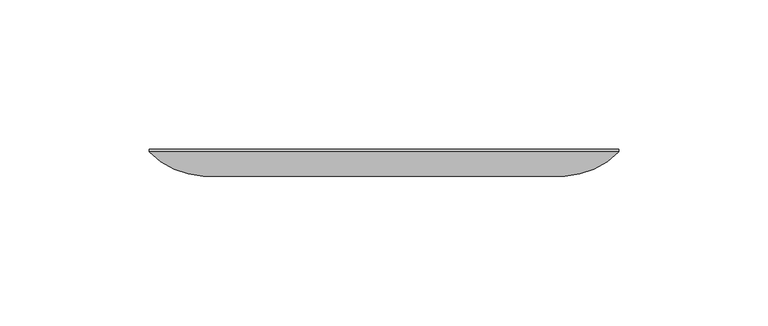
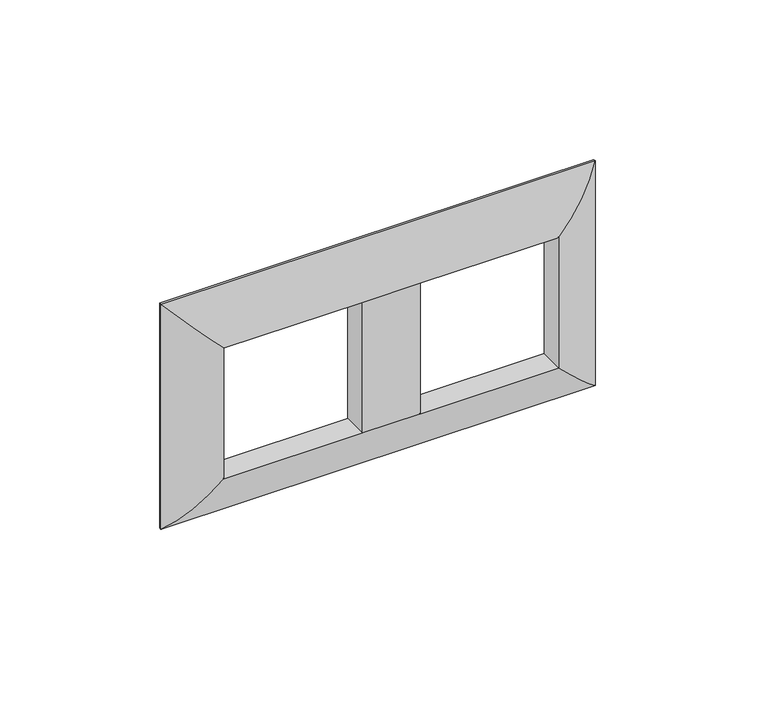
"""IFC4 building model written with IfcOpenShell, lengths in millimetres: proxy geometry, КНС_РамкаНа2+2Модуля(двухместная)_DKC : 2+2 модуля."""

import ifcopenshell
import ifcopenshell.guid

model = None  # the IFC model being written
_history = None  # IfcOwnerHistory: only IFC2X3 demands one
_inside = {}  # id of a spatial element -> (the spatial element, [elements in it])
_under = {}  # id of a project, library or spatial element -> (it, [spatial elements below it])
_declared = {}  # id of a project -> (the project, [libraries it declares])
_typed = {}  # id of a type object -> (the type object, [elements of that type])
_made_of = {}  # id of a material, layer set ... -> (it, [elements and type objects made of it])


def new_model(schema):
    """Start an empty IFC model of exactly this schema.

    Asked for "IFC4X3", IfcOpenShell would pick the latest addendum, in which some entities
    have other attributes; the version numbers below select the first issue.
    IFC2X3 requires an IfcOwnerHistory on every rooted entity: one is made here for all.
    """
    global model, _history
    if schema == "IFC4X3":
        model = ifcopenshell.file(schema_version=(4, 3, 0, 0))
    else:
        model = ifcopenshell.file(schema=schema)
    _inside.clear()
    _under.clear()
    _declared.clear()
    _typed.clear()
    _made_of.clear()
    _history = None
    if model.schema == "IFC2X3":
        org = make("IfcOrganization", Name="unknown")
        user = make(
            "IfcPersonAndOrganization",
            ThePerson=make("IfcPerson", FamilyName="unknown"),
            TheOrganization=org,
        )
        app = make(
            "IfcApplication",
            ApplicationDeveloper=org,
            Version="unknown",
            ApplicationFullName="unknown",
            ApplicationIdentifier="unknown",
        )
        _history = make(
            "IfcOwnerHistory",
            OwningUser=user,
            OwningApplication=app,
            ChangeAction="ADDED",
            CreationDate=0,
        )
    return model


def make(cls, **values):
    """One entity of the class cls with the attributes given. An attribute that is None is left unset."""
    return model.create_entity(
        cls, **{name: value for name, value in values.items() if value is not None}
    )


def rooted(cls, **values):
    """An entity with a GlobalId (a new one), such as an element, a storey or a relation."""
    return make(cls, GlobalId=ifcopenshell.guid.new(), OwnerHistory=_history, **values)


def si_unit(unit_type, name, prefix=None):
    """IfcSIUnit, for example si_unit("LENGTHUNIT", "METRE", prefix="MILLI")."""
    return make("IfcSIUnit", UnitType=unit_type, Prefix=prefix, Name=name)


def assignment(units):
    """IfcUnitAssignment: the units of a project."""
    return None if units is None else make("IfcUnitAssignment", Units=units)


def point(xyz):
    """IfcCartesianPoint."""
    return None if xyz is None else make("IfcCartesianPoint", Coordinates=xyz)


def direction(xyz):
    """IfcDirection."""
    return None if xyz is None else make("IfcDirection", DirectionRatios=xyz)


def frame(location, z_axis=None, x_axis=None):
    """IfcAxis2Placement3D, a coordinate frame: its origin and axes. An axis left out is left unset."""
    return make(
        "IfcAxis2Placement3D",
        Location=point(location),
        Axis=direction(z_axis),
        RefDirection=direction(x_axis),
    )


def origin():
    """The frame at (0, 0, 0) with its axes left unset."""
    return frame((0.0, 0.0, 0.0))


def place(relative_to, where):
    """IfcLocalPlacement: puts the frame where relative to a parent placement (None: the world)."""
    return make(
        "IfcLocalPlacement", PlacementRelTo=relative_to, RelativePlacement=where
    )


def context(
    kind, dimensions, precision=None, world=None, true_north=None, identifier=None
):
    """IfcGeometricRepresentationContext, for example the 3D "Model" context."""
    return make(
        "IfcGeometricRepresentationContext",
        ContextIdentifier=identifier,
        ContextType=kind,
        CoordinateSpaceDimension=dimensions,
        Precision=precision,
        WorldCoordinateSystem=world,
        TrueNorth=true_north,
    )


def project(units=None, contexts=None):
    """IfcProject with its units and contexts."""
    return rooted(
        "IfcProject",
        Name="project",
        RepresentationContexts=contexts,
        UnitsInContext=assignment(units),
    )


def spatial(cls, under=None, at=None, **own):
    """A site, building, storey or space (cls), placed at a placement, below another one or the project."""
    s = rooted(cls, ObjectPlacement=at, **own)
    if under is not None:
        _under.setdefault(under.id(), (under, []))[1].append(s)
    return s


def ellipse_curve(where, semi_axis1, semi_axis2):
    """IfcEllipse in the frame where."""
    return make(
        "IfcEllipse", Position=where, SemiAxis1=semi_axis1, SemiAxis2=semi_axis2
    )


def shape(context_of_items, identifier, shape_type, items):
    """IfcShapeRepresentation: the items that make up one representation, for example the "Body"."""
    return make(
        "IfcShapeRepresentation",
        ContextOfItems=context_of_items,
        RepresentationIdentifier=identifier,
        RepresentationType=shape_type,
        Items=items,
    )


def source(mapping_origin, context_of_items, identifier, shape_type, items):
    """IfcRepresentationMap: a shape defined once, which mapped items show again and again."""
    return make(
        "IfcRepresentationMap",
        MappingOrigin=mapping_origin,
        MappedRepresentation=shape(context_of_items, identifier, shape_type, items),
    )


def transform(
    local_origin,
    x_axis=None,
    y_axis=None,
    z_axis=None,
    scale=None,
    scale2=None,
    scale3=None,
    uniform=True,
):
    """IfcCartesianTransformationOperator3D, or its non-uniform kind. x_axis, y_axis, z_axis: its Axis1, 2, 3."""
    if uniform:
        return make(
            "IfcCartesianTransformationOperator3D",
            Axis1=direction(x_axis),
            Axis2=direction(y_axis),
            LocalOrigin=point(local_origin),
            Scale=scale,
            Axis3=direction(z_axis),
        )
    return make(
        "IfcCartesianTransformationOperator3DnonUniform",
        Axis1=direction(x_axis),
        Axis2=direction(y_axis),
        LocalOrigin=point(local_origin),
        Scale=scale,
        Axis3=direction(z_axis),
        Scale2=scale2,
        Scale3=scale3,
    )


def mapped(mapping_source, mapping_target):
    """IfcMappedItem: shows the shape of a source again, moved by a transform."""
    return make(
        "IfcMappedItem", MappingSource=mapping_source, MappingTarget=mapping_target
    )


def made_of(thing, what):
    """Note that an element or type object is made of a material, layer set ...; save() writes the relation."""
    if what is not None:
        _made_of.setdefault(what.id(), (what, []))[1].append(thing)
    return thing


def element(
    cls,
    number,
    at=None,
    inside=None,
    cuts=None,
    type_object=None,
    material=None,
    context=None,
    identifier="Body",
    shape_type=None,
    held_by="IfcProductDefinitionShape",
    body=None,
    shapes=None,
    **own,
):
    """One element of the class cls, such as IfcWall. Its Tag is "e" and its number.

    at: its placement. inside: the storey or other place that contains it. cuts: it is an
    opening in that element (IfcRelVoidsElement). A single representation is given by context,
    identifier, shape_type and body (its items); several are given by shapes. held_by: the class
    of the entity that holds the representations. save() writes the other relations.
    """
    e = rooted(cls, Tag="e%d" % number, ObjectPlacement=at, **own)
    if body is not None:
        shapes = [shape(context, identifier, shape_type, body)]
    if shapes is not None:
        e.Representation = make(held_by, Representations=shapes)
    if inside is not None:
        _inside.setdefault(inside.id(), (inside, []))[1].append(e)
    if cuts is not None:
        rooted(
            "IfcRelVoidsElement", RelatingBuildingElement=cuts, RelatedOpeningElement=e
        )
    if type_object is not None:
        _typed.setdefault(type_object.id(), (type_object, []))[1].append(e)
    return made_of(e, material)


def aggregate(whole, parts):
    """IfcRelAggregates: a whole, such as a stair, and the parts it consists of."""
    return rooted("IfcRelAggregates", RelatingObject=whole, RelatedObjects=parts)


def save(model, path):
    """Write the relations noted so far, then the file.

    IfcRelAggregates (storeys below a building ...), IfcRelContainedInSpatialStructure (elements
    in a storey), IfcRelDefinesByType, IfcRelAssociatesMaterial and IfcRelDeclares: one each for
    every whole, place, type object, material and project.
    """
    for whole, parts in _under.values():
        aggregate(whole, parts)
    for where, things in _inside.values():
        rooted(
            "IfcRelContainedInSpatialStructure",
            RelatedElements=things,
            RelatingStructure=where,
        )
    for kind, things in _typed.values():
        rooted("IfcRelDefinesByType", RelatedObjects=things, RelatingType=kind)
    for what, things in _made_of.values():
        rooted("IfcRelAssociatesMaterial", RelatedObjects=things, RelatingMaterial=what)
    for by, libraries in _declared.values():
        rooted("IfcRelDeclares", RelatingContext=by, RelatedDefinitions=libraries)
    model.write(path)


def plane_surface(at):
    """IfcPlane: the flat surface through the origin of the frame at, square to its z axis."""
    return make("IfcPlane", Position=at)


def cylinder_surface(at, radius):
    """IfcCylindricalSurface: all points at the distance radius from the z axis of the frame at."""
    return make("IfcCylindricalSurface", Position=at, Radius=radius)


def advanced_brep(points, edges, surfaces, faces):
    """IfcAdvancedBrep: a solid bounded by faces that lie on surfaces and meet in shared edges.

    An edge is (start, end): straight between two places in points (the first is 0);
    or (start, end, curve); or (start, end, curve, False) where it runs against its curve.
    A face is (place in surfaces, loops), or (place, loops, False) where it looks against
    its surface's normal. A loop lists edges by number (the first is 1), with a minus sign
    where the edge is run from its end to its start. The first loop is the outer one.
    """
    corners = [point(p) for p in points]
    vertices = [make("IfcVertexPoint", VertexGeometry=c) for c in corners]
    made = []
    for start, end, *more in edges:
        made.append(
            make(
                "IfcEdgeCurve",
                EdgeStart=vertices[start],
                EdgeEnd=vertices[end],
                EdgeGeometry=more[0] if more else make("IfcPolyline", Points=[corners[start], corners[end]]),
                SameSense=more[1] if len(more) > 1 else True,
            )
        )
    hull = []
    for where, loops, *sense in faces:
        bounds = []
        for j, loop in enumerate(loops):
            ring = [make("IfcOrientedEdge", EdgeElement=made[abs(k) - 1], Orientation=k > 0) for k in loop]
            bounds.append(
                make(
                    "IfcFaceOuterBound" if j == 0 else "IfcFaceBound",
                    Bound=make("IfcEdgeLoop", EdgeList=ring),
                    Orientation=True,
                )
            )
        hull.append(make("IfcAdvancedFace", Bounds=bounds, FaceSurface=surfaces[where], SameSense=sense[0] if sense else True))
    return make("IfcAdvancedBrep", Outer=make("IfcClosedShell", CfsFaces=hull))


def electrical_fixtures_0f3627e5(model_context):
    return source(origin(), model_context, "Body", "AdvancedBrep", [
        advanced_brep(
        [(60.5, -9.0, 24.9768143), (60.5, 0.0, 24.9768143), (60.5, 0.0, -24.9768143), (60.5, -9.0, -24.9768143), (78.5, -0.8, -42.9768143), (78.5, -0.8, 42.9768143), (78.5, 0.0, -42.9768143), (78.5, 0.0, 42.9768143), (10.5, 0.0, -24.9768143), (10.5, -9.0, -24.9768143), (-60.5, 0.0, -24.9768143), (-60.5, -9.0, -24.9768143), (-10.5, -9.0, -24.9768143), (-10.5, 0.0, -24.9768143), (-78.5, -0.8, -42.9768143), (-78.5, 0.0, -42.9768143), (-60.5, 0.0, 24.9768143), (-60.5, -9.0, 24.9768143), (-78.5, -0.8, 42.9768143), (-78.5, 0.0, 42.9768143), (10.5, -9.0, 24.9768143), (10.5, 0.0, 24.9768143), (-10.5, 0.0, 24.9768143), (-10.5, -9.0, 24.9768143)],
        [
            (0, 1),
            (1, 2),
            (2, 3),
            (3, 0),
            (3, 4, ellipse_curve(frame((58.7227605, 18.757355, -23.1995748), z_axis=(0.7071067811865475, 0.0, 0.7071067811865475), x_axis=(-0.7071067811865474, 0.0, 0.7071067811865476)), 39.3352091, 27.8141931)),
            (4, 5),
            (5, 0, ellipse_curve(frame((58.7227605, 18.757355, 23.1995748), z_axis=(0.7071067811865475, 0.0, -0.7071067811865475), x_axis=(0.7071067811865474, 0.0, 0.7071067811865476)), 39.3352091, 27.8141931)),
            (4, 6),
            (6, 7),
            (7, 5),
            (2, 8),
            (8, 9),
            (9, 3),
            (10, 11),
            (11, 12),
            (12, 13),
            (13, 10),
            (9, 12),
            (11, 14, ellipse_curve(frame((-58.7227605, 18.757355, -23.1995748), z_axis=(0.7071067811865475, 0.0, -0.7071067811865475), x_axis=(0.7071067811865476, 0.0, 0.7071067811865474)), 39.3352091, 27.8141931)),
            (14, 4),
            (14, 15),
            (15, 6),
            (10, 16),
            (16, 17),
            (17, 11),
            (17, 18, ellipse_curve(frame((-58.7227605, 18.757355, 23.1995748), z_axis=(-0.7071067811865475, 0.0, -0.7071067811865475), x_axis=(0.7071067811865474, 0.0, -0.7071067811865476)), 39.3352091, 27.8141931)),
            (18, 14),
            (18, 19),
            (19, 15),
            (0, 20),
            (20, 21),
            (21, 1),
            (16, 22),
            (22, 23),
            (23, 17),
            (5, 18),
            (23, 20),
            (7, 19),
            (21, 8),
            (13, 22),
            (23, 12),
            (9, 20),
        ],
        [
            plane_surface(frame((60.5, 0.0, 24.9768143), z_axis=(-1.0, 0.0, 0.0), x_axis=(0.0, 0.0, -1.0))),
            cylinder_surface(frame((58.7227605, 18.757355, 42.9768143), z_axis=(0.0, 0.0, 1.0), x_axis=(1.0, 0.0, 0.0)), 27.8141931),
            plane_surface(frame((78.5, -0.8, 42.9768143), z_axis=(1.0, 0.0, 0.0), x_axis=(0.0, 0.0, -1.0))),
            plane_surface(frame((60.5, 0.0, -24.9768143), z_axis=(0.0, 0.0, 1.0), x_axis=(-1.0, 0.0, 0.0))),
            cylinder_surface(frame((78.5, 18.757355, -23.1995748), z_axis=(1.0, 0.0, 0.0), x_axis=(0.0, 0.0, -1.0)), 27.8141931),
            plane_surface(frame((78.5, -0.8, -42.9768143), z_axis=(0.0, 0.0, -1.0), x_axis=(-1.0, 0.0, 0.0))),
            plane_surface(frame((-60.5, 0.0, -24.9768143), z_axis=(1.0, 0.0, 0.0), x_axis=(0.0, 0.0, 1.0))),
            cylinder_surface(frame((-58.7227605, 18.757355, -42.9768143), z_axis=(0.0, 0.0, -1.0), x_axis=(-1.0, 0.0, 0.0)), 27.8141931),
            plane_surface(frame((-78.5, -0.8, -42.9768143), z_axis=(-1.0, 0.0, 0.0), x_axis=(0.0, 0.0, 1.0))),
            plane_surface(frame((-60.5, 0.0, 24.9768143), z_axis=(0.0, 0.0, -1.0), x_axis=(1.0, 0.0, 0.0))),
            cylinder_surface(frame((-78.5, 18.757355, 23.1995748), z_axis=(-1.0, 0.0, 0.0), x_axis=(0.0, 0.0, 1.0)), 27.8141931),
            plane_surface(frame((-78.5, -0.8, 42.9768143), z_axis=(0.0, 0.0, 1.0), x_axis=(1.0, 0.0, 0.0))),
            plane_surface(frame((-78.5, 0.0, 42.9768143), z_axis=(0.0, 1.0, 0.0), x_axis=(1.0, 0.0, 0.0))),
            plane_surface(frame((35.5, -9.0, 24.9768143), z_axis=(0.0, -1.0, 0.0), x_axis=(-1.0, 0.0, 0.0))),
            plane_surface(frame((-10.5, -9.0, 24.9768143), z_axis=(-1.0, 0.0, 0.0), x_axis=(0.0, 1.0, 0.0))),
            plane_surface(frame((10.5, -9.0, -24.9768143), z_axis=(1.0, 0.0, 0.0), x_axis=(0.0, 1.0, 0.0))),
        ],
        [
            (0, [[1, 2, 3, 4]]),
            (1, [[-4, 5, 6, 7]]),
            (2, [[-6, 8, 9, 10]]),
            (3, [[-3, 11, 12, 13]]),
            (3, [[14, 15, 16, 17]]),
            (4, [[-5, -13, 18, -15, 19, 20]]),
            (5, [[-8, -20, 21, 22]]),
            (6, [[-14, 23, 24, 25]]),
            (7, [[-19, -25, 26, 27]]),
            (8, [[-21, -27, 28, 29]]),
            (9, [[-1, 30, 31, 32]]),
            (9, [[-24, 33, 34, 35]]),
            (10, [[-7, 36, -26, -35, 37, -30]]),
            (11, [[-10, 38, -28, -36]]),
            (12, [[-9, -22, -29, -38], [-2, -32, 39, -11], [-17, 40, -33, -23]]),
            (13, [[41, -18, 42, -37]]),
            (14, [[-41, -34, -40, -16]]),
            (15, [[-42, -12, -39, -31]]),
        ],
    ),
    ])


if __name__ == "__main__":
    model = new_model("IFC4")
    model_context = context("Model", 3, world=origin())
    ifc_project = project(units=[si_unit("LENGTHUNIT", "METRE", prefix="MILLI")], contexts=[model_context])
    site = spatial("IfcSite", under=ifc_project)
    building = spatial("IfcBuilding", under=site)
    placement = place(None, origin())
    electrical_fixtures_shape = electrical_fixtures_0f3627e5(model_context)
    element("IfcBuildingElementProxy", 1, Name="КНС_РамкаНа2+2Модуля(двухместная)_DKC : 2+2 модуля", ObjectType="КНС_РамкаНа2+2Модуля(двухместная)_DKC : 2+2 модуля", at=placement, inside=building, context=model_context, shape_type="MappedRepresentation", body=[
        mapped(electrical_fixtures_shape, transform((0.0, 0.0, 0.0), x_axis=(1.0, 0.0, 0.0), y_axis=(0.0, 1.0, 0.0), z_axis=(0.0, 0.0, 1.0))),
    ])
    save(model, "model.ifc")
